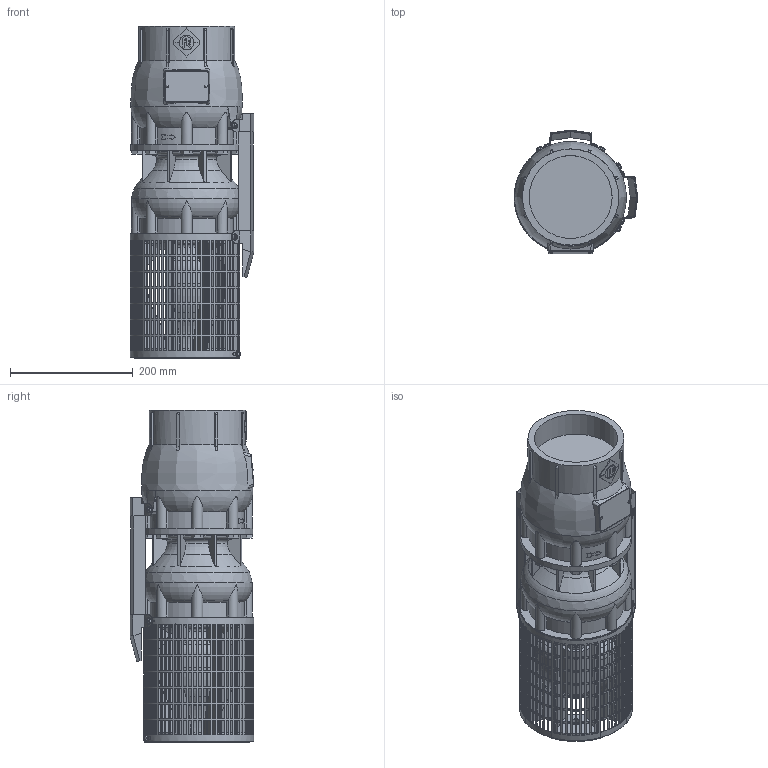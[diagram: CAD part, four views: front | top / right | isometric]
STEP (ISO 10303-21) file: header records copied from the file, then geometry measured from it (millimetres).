
FILE_DESCRIPTION(/* description */ ('Unknown'),/* implementation_level */ '2;1');
FILE_NAME(/* name */ 'VSI134-1_WR_M6-50_SLE',/* time_stamp */ '2023-09-14T15:07:29+02:00',/* author */ ('Unknown'),/* organization */ ('Unknown'),/* preprocessor_version */ 'ST-DEVELOPER v18.102',/* originating_system */ 'Solid Edge',/* authorisation */ 'Unknown');
FILE_SCHEMA (('AUTOMOTIVE_DESIGN {1 0 10303 214 3 1 1}'));
Products named in the file (11): VSI134-1_WR_M6-50_SLE; VSI134_testata; VSI134_diffusore; VSI134_supporto_8×6; VSI134_filtro_A; VSI134_filtro_B; VSI134_terminale_top_copricavo_basso; VSI134_terminale_bottom_copricavo_basso; LOW 134-1; M5X8_UNI7687; VSI134_giunto_8×6
Assembly tree (24 placements, depth 2):
  VSI134-1_WR_M6-50_SLE
    VSI134_testata
    VSI134_diffusore
    VSI134_supporto_8×6
    VSI134_filtro_A
    VSI134_filtro_B
    VSI134_terminale_top_copricavo_basso  x2
    VSI134_terminale_bottom_copricavo_basso  x2
    LOW 134-1  x2
    M5X8_UNI7687  x12
    VSI134_giunto_8×6
Bounding box: 201.57 x 202.09 x 542 mm (x, y, z)
Volume: 7804165.8 mm3; surface area: 878728.5 mm2
Topology: 63 solids, 65 shells, 2806 faces, 7900 edges, 5258 vertices
Faces by surface type: plane 2202, cylinder 405, torus 99, cone 55, bspline 31, sphere 14
Full cylindrical faces by diameter (mm): 2.4 x2, 3 x2, 4.2 x16, 5 x12, 5.5 x8, 15 x4, 26 x1, 44 x1, 59 x1, 74 x1, 76.2 x1, 98 x1, 135.472 x1, 157 x1, 182 x2
Entity records: 83741 total; most frequent: CARTESIAN_POINT 18044, ORIENTED_EDGE 13738, DIRECTION 13170, EDGE_CURVE 6869, VERTEX_POINT 4627, AXIS2_PLACEMENT_3D 4492, LINE 4186, VECTOR 4186
